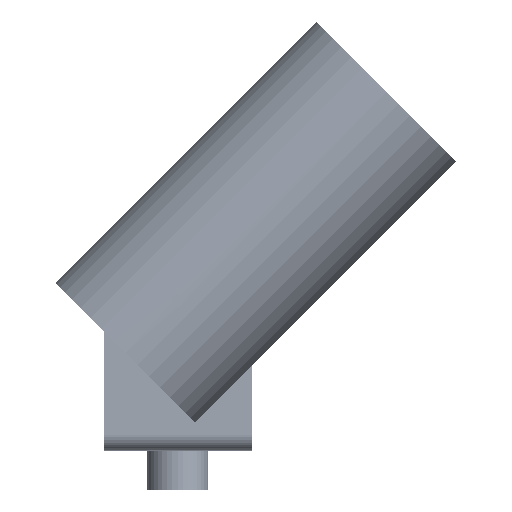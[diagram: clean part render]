
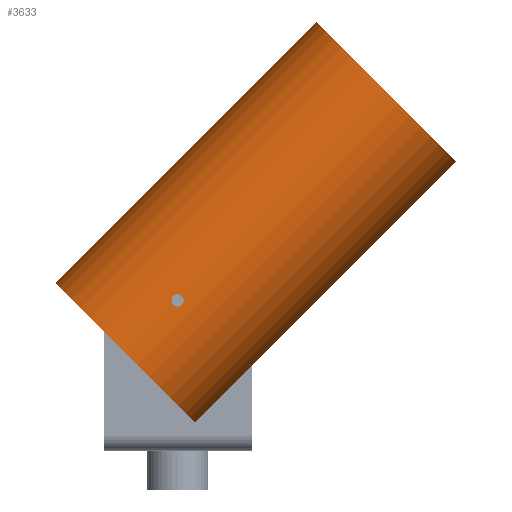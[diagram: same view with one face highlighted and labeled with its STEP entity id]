
A CAD part, left-side view. The second image highlights one B-rep face of the part: STEP entity #3633.
In plain terms, the highlighted cylindrical face has radius 40 mm (diameter 80 mm), a partial arc.
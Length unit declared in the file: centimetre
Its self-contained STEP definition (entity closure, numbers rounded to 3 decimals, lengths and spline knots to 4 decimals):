
#2155=FACE_BOUND('',#24675,.T.);
#3633=ADVANCED_FACE('',(#14137,#2155),#172845,.T.);
#14137=FACE_OUTER_BOUND('',#24674,.T.);
#24674=EDGE_LOOP('',(#37819,#37820,#37821,#37822));
#24675=EDGE_LOOP('',(#37823,#37824));
#37819=ORIENTED_EDGE('',*,*,#91110,.F.);
#37820=ORIENTED_EDGE('',*,*,#91106,.F.);
#37821=ORIENTED_EDGE('',*,*,#91111,.T.);
#37822=ORIENTED_EDGE('',*,*,#91108,.F.);
#37823=ORIENTED_EDGE('',*,*,#91113,.T.);
#37824=ORIENTED_EDGE('',*,*,#91112,.T.);
#91106=EDGE_CURVE('',#148565,#148563,#117891,.T.);
#91108=EDGE_CURVE('',#148564,#148566,#117892,.T.);
#91110=EDGE_CURVE('',#148563,#148564,#141210,.T.);
#91111=EDGE_CURVE('',#148565,#148566,#141211,.T.);
#91112=EDGE_CURVE('',#148570,#148571,#117894,.T.);
#91113=EDGE_CURVE('',#148571,#148570,#117895,.T.);
#117891=B_SPLINE_CURVE_WITH_KNOTS('',1,(#208270,#208271),.UNSPECIFIED.,
 .F.,.F.,(2,2),(-150.,0.),.UNSPECIFIED.);
#117892=B_SPLINE_CURVE_WITH_KNOTS('',1,(#208275,#208276),.UNSPECIFIED.,
 .F.,.F.,(2,2),(-150.,0.),.UNSPECIFIED.);
#117894=B_SPLINE_CURVE_WITH_KNOTS('',3,(#208339,#208340,#208341,#208342,
#208343,#208344,#208345,#208346,#208347,#208348,#208349,#208350,#208351,
#208352,#208353,#208354,#208355,#208356,#208357,#208358,#208359,#208360,
#208361,#208362,#208363,#208364,#208365,#208366,#208367,#208368,#208369,
#208370,#208371,#208372,#208373,#208374,#208375,#208376),.UNSPECIFIED.,
 .F.,.F.,(4,1,1,1,1,1,1,1,1,1,1,1,1,1,1,1,1,1,1,1,1,1,1,1,1,1,1,1,1,1,1,
1,1,1,1,4),(-7.8635,-7.6389,-7.4142,-7.1895,
-6.9648,-6.7402,-6.5155,-6.2908,
-6.0661,-5.8415,-5.6168,-5.3921,
-5.1675,-4.9428,-4.7181,-4.4934,
-4.2688,-4.0441,-3.8194,-3.5948,
-3.3701,-3.1454,-2.9207,-2.6961,
-2.4714,-2.2467,-2.022,-1.7974,
-1.5727,-1.348,-1.1234,-0.8987,
-0.674,-0.4493,-0.2247,0.),
 .UNSPECIFIED.);
#117895=B_SPLINE_CURVE_WITH_KNOTS('',3,(#208377,#208378,#208379,#208380,
#208381,#208382,#208383,#208384,#208385,#208386,#208387,#208388,#208389,
#208390,#208391,#208392,#208393,#208394,#208395,#208396,#208397,#208398,
#208399,#208400,#208401,#208402,#208403,#208404,#208405,#208406,#208407,
#208408,#208409,#208410,#208411,#208412,#208413,#208414),.UNSPECIFIED.,
 .F.,.F.,(4,1,1,1,1,1,1,1,1,1,1,1,1,1,1,1,1,1,1,1,1,1,1,1,1,1,1,1,1,1,1,
1,1,1,1,4),(-7.8638,-7.6391,-7.4145,-7.1898,
-6.9651,-6.7404,-6.5157,-6.2911,
-6.0664,-5.8417,-5.617,-5.3923,
-5.1677,-4.943,-4.7183,-4.4936,-4.2689,
-4.0443,-3.8196,-3.5949,-3.3702,
-3.1455,-2.9209,-2.6962,-2.4715,
-2.2468,-2.0221,-1.7974,-1.5728,
-1.3481,-1.1234,-0.8987,-0.674,
-0.4494,-0.2247,0.),.UNSPECIFIED.);
#141210=TRIMMED_CURVE($,#144776,(#208334),(#208335),.T.,.CARTESIAN.);
#141211=TRIMMED_CURVE($,#144777,(#208337),(#208338),.T.,.CARTESIAN.);
#144776=CIRCLE('',#175223,4.);
#144777=CIRCLE('',#175224,4.);
#148563=VERTEX_POINT('',#208194);
#148564=VERTEX_POINT('',#208195);
#148565=VERTEX_POINT('',#208196);
#148566=VERTEX_POINT('',#208197);
#148570=VERTEX_POINT('',#208201);
#148571=VERTEX_POINT('',#208202);
#172845=CYLINDRICAL_SURFACE('',#175214,4.);
#175214=AXIS2_PLACEMENT_3D('',#208183,#187702,$);
#175223=AXIS2_PLACEMENT_3D($,#208333,#187713,#187714);
#175224=AXIS2_PLACEMENT_3D($,#208336,#187715,#187716);
#187702=DIRECTION('',(0.,-0.707,0.707));
#187713=DIRECTION('',(0.,-0.707,0.707));
#187714=DIRECTION('',(0.,0.707,0.707));
#187715=DIRECTION('',(0.,-0.707,0.707));
#187716=DIRECTION('',(0.,0.707,0.707));
#208183=CARTESIAN_POINT('',(-10.,-3.182,9.282));
#208194=CARTESIAN_POINT('',(-10.,-5.6569,17.4137));
#208195=CARTESIAN_POINT('',(-10.,-11.3137,11.7569));
#208196=CARTESIAN_POINT('',(-10.,4.9497,6.8071));
#208197=CARTESIAN_POINT('',(-10.,-0.7071,1.1503));
#208201=CARTESIAN_POINT('',(-13.9922,-0.1768,5.9232));
#208202=CARTESIAN_POINT('',(-13.9922,0.1768,6.2768));
#208270=CARTESIAN_POINT('',(-10.,4.9497,6.8071));
#208271=CARTESIAN_POINT('',(-10.,-5.6569,17.4137));
#208275=CARTESIAN_POINT('',(-10.,-11.3137,11.7569));
#208276=CARTESIAN_POINT('',(-10.,-0.7071,1.1503));
#208333=CARTESIAN_POINT('',(-10.,-8.4853,14.5853));
#208334=CARTESIAN_POINT('',(-10.,-5.6569,17.4137));
#208335=CARTESIAN_POINT('',(-10.,-11.3137,11.7569));
#208336=CARTESIAN_POINT('',(-10.,2.1213,3.9787));
#208337=CARTESIAN_POINT('',(-10.,4.9497,6.8071));
#208338=CARTESIAN_POINT('',(-10.,-0.7071,1.1503));
#208339=CARTESIAN_POINT('',(-13.9922,-0.1768,5.9232));
#208340=CARTESIAN_POINT('',(-13.9922,-0.1715,5.9179));
#208341=CARTESIAN_POINT('',(-13.9922,-0.1604,5.9078));
#208342=CARTESIAN_POINT('',(-13.9924,-0.1427,5.8943));
#208343=CARTESIAN_POINT('',(-13.9927,-0.1237,5.8824));
#208344=CARTESIAN_POINT('',(-13.9931,-0.1038,5.8722));
#208345=CARTESIAN_POINT('',(-13.9936,-0.0829,5.8638));
#208346=CARTESIAN_POINT('',(-13.9942,-0.0616,5.8574));
#208347=CARTESIAN_POINT('',(-13.9949,-0.0395,5.8528));
#208348=CARTESIAN_POINT('',(-13.9956,-0.0172,5.8503));
#208349=CARTESIAN_POINT('',(-13.9963,0.0052,5.8497));
#208350=CARTESIAN_POINT('',(-13.997,0.0276,5.8512));
#208351=CARTESIAN_POINT('',(-13.9976,0.0498,5.8547));
#208352=CARTESIAN_POINT('',(-13.9982,0.0717,5.8601));
#208353=CARTESIAN_POINT('',(-13.9988,0.0929,5.8675));
#208354=CARTESIAN_POINT('',(-13.9993,0.1133,5.8768));
#208355=CARTESIAN_POINT('',(-13.9996,0.1329,5.8879));
#208356=CARTESIAN_POINT('',(-13.9999,0.1515,5.9007));
#208357=CARTESIAN_POINT('',(-14.,0.1686,5.915));
#208358=CARTESIAN_POINT('',(-14.,0.1844,5.9307));
#208359=CARTESIAN_POINT('',(-13.9999,0.1989,5.948));
#208360=CARTESIAN_POINT('',(-13.9996,0.2117,5.9664));
#208361=CARTESIAN_POINT('',(-13.9993,0.2227,5.9857));
#208362=CARTESIAN_POINT('',(-13.9988,0.2321,6.0061));
#208363=CARTESIAN_POINT('',(-13.9983,0.2396,6.0274));
#208364=CARTESIAN_POINT('',(-13.9977,0.2451,6.0492));
#208365=CARTESIAN_POINT('',(-13.997,0.2487,6.0713));
#208366=CARTESIAN_POINT('',(-13.9963,0.2503,6.0937));
#208367=CARTESIAN_POINT('',(-13.9956,0.2498,6.1163));
#208368=CARTESIAN_POINT('',(-13.9949,0.2473,6.1386));
#208369=CARTESIAN_POINT('',(-13.9942,0.2429,6.1606));
#208370=CARTESIAN_POINT('',(-13.9937,0.2364,6.1822));
#208371=CARTESIAN_POINT('',(-13.9931,0.2281,6.2032));
#208372=CARTESIAN_POINT('',(-13.9927,0.2179,6.2232));
#208373=CARTESIAN_POINT('',(-13.9924,0.206,6.2422));
#208374=CARTESIAN_POINT('',(-13.9922,0.1923,6.2603));
#208375=CARTESIAN_POINT('',(-13.9922,0.1821,6.2714));
#208376=CARTESIAN_POINT('',(-13.9922,0.1768,6.2768));
#208377=CARTESIAN_POINT('',(-13.9922,0.1768,6.2768));
#208378=CARTESIAN_POINT('',(-13.9922,0.1715,6.282));
#208379=CARTESIAN_POINT('',(-13.9922,0.1605,6.2921));
#208380=CARTESIAN_POINT('',(-13.9924,0.1427,6.3057));
#208381=CARTESIAN_POINT('',(-13.9927,0.1236,6.3177));
#208382=CARTESIAN_POINT('',(-13.9931,0.1037,6.3278));
#208383=CARTESIAN_POINT('',(-13.9936,0.0829,6.3362));
#208384=CARTESIAN_POINT('',(-13.9942,0.0614,6.3427));
#208385=CARTESIAN_POINT('',(-13.9949,0.0394,6.3472));
#208386=CARTESIAN_POINT('',(-13.9956,0.017,6.3498));
#208387=CARTESIAN_POINT('',(-13.9963,-0.0054,6.3503));
#208388=CARTESIAN_POINT('',(-13.997,-0.0278,6.3488));
#208389=CARTESIAN_POINT('',(-13.9976,-0.05,6.3453));
#208390=CARTESIAN_POINT('',(-13.9982,-0.0717,6.3398));
#208391=CARTESIAN_POINT('',(-13.9988,-0.0928,6.3325));
#208392=CARTESIAN_POINT('',(-13.9993,-0.1134,6.3232));
#208393=CARTESIAN_POINT('',(-13.9996,-0.133,6.3121));
#208394=CARTESIAN_POINT('',(-13.9999,-0.1515,6.2993));
#208395=CARTESIAN_POINT('',(-14.,-0.1688,6.2849));
#208396=CARTESIAN_POINT('',(-14.,-0.1848,6.2689));
#208397=CARTESIAN_POINT('',(-13.9999,-0.1992,6.2516));
#208398=CARTESIAN_POINT('',(-13.9996,-0.2119,6.2332));
#208399=CARTESIAN_POINT('',(-13.9993,-0.223,6.2137));
#208400=CARTESIAN_POINT('',(-13.9988,-0.2324,6.1931));
#208401=CARTESIAN_POINT('',(-13.9983,-0.2398,6.172));
#208402=CARTESIAN_POINT('',(-13.9976,-0.2452,6.1503));
#208403=CARTESIAN_POINT('',(-13.997,-0.2488,6.128));
#208404=CARTESIAN_POINT('',(-13.9963,-0.2503,6.1056));
#208405=CARTESIAN_POINT('',(-13.9956,-0.2498,6.0832));
#208406=CARTESIAN_POINT('',(-13.9949,-0.2473,6.0609));
#208407=CARTESIAN_POINT('',(-13.9942,-0.2428,6.0388));
#208408=CARTESIAN_POINT('',(-13.9936,-0.2363,6.0172));
#208409=CARTESIAN_POINT('',(-13.9931,-0.2279,5.9964));
#208410=CARTESIAN_POINT('',(-13.9927,-0.2177,5.9764));
#208411=CARTESIAN_POINT('',(-13.9924,-0.2057,5.9574));
#208412=CARTESIAN_POINT('',(-13.9922,-0.1921,5.9395));
#208413=CARTESIAN_POINT('',(-13.9922,-0.1821,5.9285));
#208414=CARTESIAN_POINT('',(-13.9922,-0.1768,5.9232));
